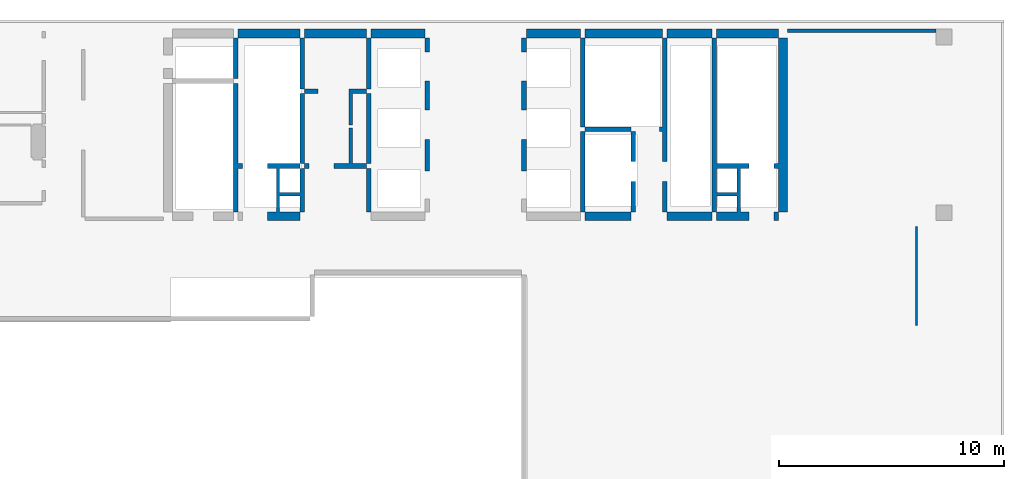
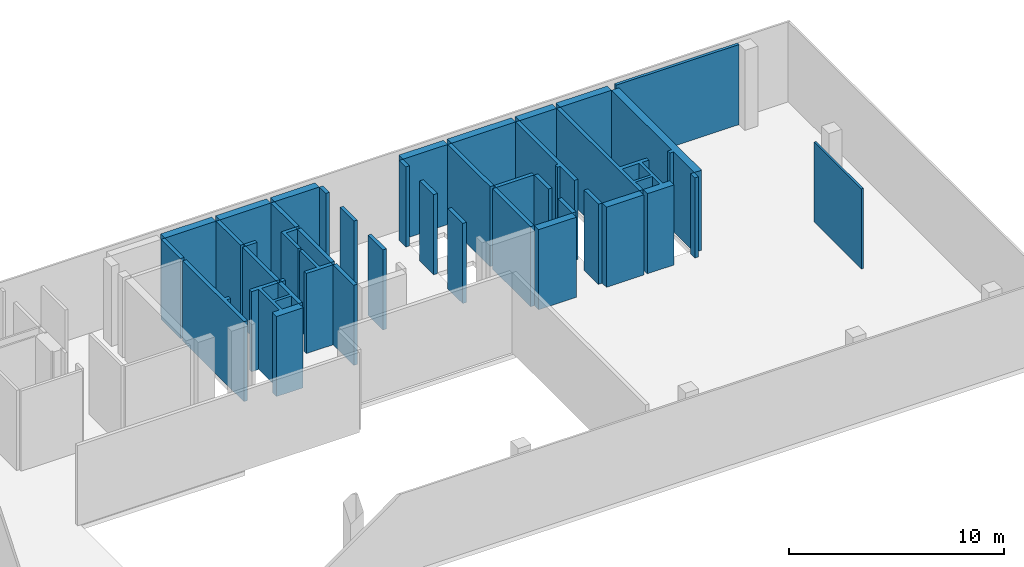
# One storey, part 2 of 3: 39 walls.
"""IFC4 building model written with IfcOpenShell, lengths in millimetres."""

from ifc_helpers import new_model, si_unit, frame, origin, place, context, project, spatial, triangles, element, save


model = new_model("IFC4")

# Units and contexts
model_context = context("Model", 3, precision=0.001, world=origin())
ifc_project = project(units=[si_unit("LENGTHUNIT", "METRE", prefix="MILLI"), si_unit("AREAUNIT", "SQUARE_METRE"), si_unit("VOLUMEUNIT", "CUBIC_METRE")], contexts=[model_context])

# Site, building, storey
site_placement = place(None, origin())
site = spatial("IfcSite", under=ifc_project, at=site_placement, Name="Site", CompositionType="ELEMENT")
building_placement = place(site_placement, origin())
building = spatial("IfcBuilding", under=site, at=building_placement, Name="INNOCEAN", CompositionType="ELEMENT")
storey_placement = place(building_placement, frame((0.0, 0.0, 25400.0)))
storey = spatial("IfcBuildingStorey", under=building, at=storey_placement, Name="F06", CompositionType="ELEMENT", Elevation=25400.0)

# Walls
wall_1_placement = place(storey_placement, origin())
element("IfcWall", 1, at=wall_1_placement, inside=storey, Name="F06_Walls_F06_023", context=model_context, shape_type="Tessellation", body=[
    triangles([(17749.4, 17316.1, 0.0), (17749.4, 16922.4, 0.0), (17749.4, 16922.4, 4550.0), (17749.4, 17316.1, 4550.0), (19183.7, 16922.4, 0.0), (19183.7, 16922.4, 4550.0), (19183.7, 17316.1, 0.0), (19183.7, 17316.1, 4550.0), (19374.1, 17316.1, 0.0), (19374.1, 17316.1, 4550.0), (19374.1, 19246.7, 0.0), (19374.1, 19246.7, 4550.0), (19183.7, 19246.7, 0.0), (19183.7, 19246.7, 4550.0), (19183.7, 19449.9, 0.0), (19183.7, 19449.9, 4550.0), (17749.4, 19449.9, 0.0), (17749.4, 19449.9, 4550.0), (17749.4, 19246.7, 0.0), (17749.4, 19246.7, 4550.0), (18130.2, 19246.7, 0.0), (18130.2, 19246.7, 4550.0), (18130.2, 19245.0, 0.0), (18130.2, 19245.0, 4550.0), (18130.0, 19245.0, 0.0), (18130.0, 19245.0, 4550.0), (18130.0, 17316.1, 0.0), (18130.0, 17316.1, 4550.0), (18282.5, 17316.1, 0.0), (18282.5, 17316.1, 4550.0), (18282.5, 18014.7, 0.0), (18282.5, 18014.7, 4550.0), (19183.7, 18014.7, 0.0), (19183.7, 18014.7, 4550.0), (19183.7, 18167.1, 0.0), (19183.7, 18167.1, 4550.0), (18282.5, 18167.1, 0.0), (18282.5, 18167.1, 4550.0), (18282.5, 19246.7, 0.0), (18282.5, 19246.7, 4550.0)], [[1, 2, 3], [1, 3, 4], [2, 5, 6], [2, 6, 3], [5, 7, 8], [5, 8, 6], [9, 10, 8], [7, 9, 8], [9, 11, 12], [9, 12, 10], [13, 14, 12], [11, 13, 12], [13, 15, 16], [13, 16, 14], [15, 17, 18], [15, 18, 16], [17, 19, 20], [17, 20, 18], [19, 21, 22], [19, 22, 20], [21, 23, 24], [21, 24, 22], [23, 25, 26], [23, 26, 24], [25, 27, 28], [25, 28, 26], [27, 1, 4], [27, 4, 28], [7, 29, 30], [7, 30, 8], [29, 31, 32], [29, 32, 30], [31, 33, 34], [31, 34, 32], [33, 7, 8], [33, 8, 34], [13, 35, 36], [13, 36, 14], [35, 37, 38], [35, 38, 36], [37, 39, 40], [37, 40, 38], [39, 13, 14], [39, 14, 40], [33, 9, 7], [35, 9, 33], [29, 7, 5], [2, 29, 5], [27, 29, 2], [1, 27, 2], [31, 35, 33], [31, 29, 27], [11, 9, 35], [37, 35, 31], [13, 11, 35], [39, 15, 13], [23, 39, 37], [25, 23, 37], [21, 39, 23], [17, 21, 19], [17, 15, 39], [17, 39, 21], [27, 25, 37], [27, 37, 31], [10, 34, 8], [10, 36, 34], [8, 30, 6], [30, 3, 6], [30, 28, 3], [28, 4, 3], [36, 32, 34], [30, 32, 28], [10, 12, 36], [36, 38, 32], [12, 14, 36], [16, 40, 14], [40, 24, 38], [24, 26, 38], [40, 22, 24], [22, 18, 20], [16, 18, 40], [40, 18, 22], [26, 28, 38], [38, 28, 32]], closed=True),
])
wall_2_placement = place(storey_placement, origin())
element("IfcWall", 2, at=wall_2_placement, inside=storey, Name="F06_Walls_F06_024", context=model_context, shape_type="Tessellation", body=[
    triangles([(16429.3, 23019.0, 0.0), (16226.2, 23019.0, 0.0), (16226.2, 23019.0, 4550.0), (16429.3, 23019.0, 4550.0), (16429.3, 19449.9, 0.0), (16429.3, 19449.9, 4550.0), (16632.4, 19449.9, 0.0), (16632.4, 19449.9, 4550.0), (16632.4, 19246.7, 0.0), (16632.4, 19246.7, 4550.0), (16429.3, 19246.7, 0.0), (16429.3, 19246.7, 4550.0), (16429.3, 17316.1, 0.0), (16429.3, 17316.1, 4550.0), (16226.2, 17316.1, 0.0), (16226.2, 17316.1, 4550.0), (16226.2, 19246.7, 0.0), (16226.2, 19246.7, 4550.0), (16226.2, 19449.9, 0.0), (16226.2, 19449.9, 4550.0)], [[1, 2, 3], [1, 3, 4], [5, 1, 4], [5, 4, 6], [7, 5, 6], [7, 6, 8], [9, 7, 8], [9, 8, 10], [11, 9, 10], [11, 10, 12], [13, 11, 12], [13, 12, 14], [15, 13, 14], [15, 14, 16], [17, 15, 16], [17, 16, 18], [19, 17, 18], [19, 18, 20], [2, 19, 20], [2, 20, 3], [17, 11, 13], [17, 13, 15], [5, 7, 9], [5, 9, 11], [19, 5, 11], [19, 11, 17], [1, 5, 19], [2, 1, 19], [12, 18, 14], [14, 18, 16], [8, 6, 10], [10, 6, 12], [6, 20, 12], [12, 20, 18], [6, 4, 20], [4, 3, 20]], closed=True),
])
wall_3_placement = place(storey_placement, origin())
element("IfcWall", 3, at=wall_3_placement, inside=storey, Name="F06_Walls_F06_025", context=model_context, shape_type="Tessellation", body=[
    triangles([(19374.1, 19449.9, 0.0), (19374.1, 19246.7, 0.0), (19374.1, 19246.7, 4550.0), (19374.1, 19449.9, 4550.0), (19577.2, 19449.9, 0.0), (19577.2, 19449.9, 4550.0), (19577.2, 19246.7, 0.0), (19577.2, 19246.7, 4550.0)], [[1, 2, 3], [1, 3, 4], [5, 1, 4], [5, 4, 6], [7, 5, 6], [7, 6, 8], [2, 7, 8], [2, 8, 3], [1, 5, 7], [1, 7, 2], [6, 4, 8], [8, 4, 3]], closed=True),
])
wall_4_placement = place(storey_placement, origin())
element("IfcWall", 4, at=wall_4_placement, inside=storey, Name="F06_Walls_F06_026", context=model_context, shape_type="Tessellation", body=[
    triangles([(22128.5, 19246.7, 0.0), (22128.5, 19449.9, 0.0), (22128.5, 19449.9, 4550.0), (22128.5, 19246.7, 4550.0), (20694.2, 19246.7, 0.0), (20694.2, 19246.7, 4550.0), (20694.2, 19449.9, 0.0), (20694.2, 19449.9, 4550.0), (21366.9, 19449.9, 0.0), (21366.9, 19449.9, 4550.0), (21366.9, 21024.9, 0.0), (21366.9, 21024.9, 4550.0), (21519.3, 21024.9, 0.0), (21519.3, 21024.9, 4550.0), (21519.3, 19449.9, 0.0), (21519.3, 19449.9, 4550.0)], [[1, 2, 3], [1, 3, 4], [5, 1, 4], [5, 4, 6], [7, 5, 6], [7, 6, 8], [9, 7, 8], [9, 8, 10], [11, 9, 10], [11, 10, 12], [13, 11, 12], [13, 12, 14], [15, 13, 14], [15, 14, 16], [2, 15, 16], [2, 16, 3], [15, 2, 1], [9, 15, 1], [5, 9, 1], [7, 9, 5], [11, 13, 15], [11, 15, 9], [3, 16, 4], [16, 10, 4], [10, 6, 4], [10, 8, 6], [14, 12, 16], [16, 12, 10]], closed=True),
])
wall_5_placement = place(storey_placement, origin())
element("IfcWall", 5, at=wall_5_placement, inside=storey, Name="F06_Walls_F06_027", context=model_context, shape_type="Tessellation", body=[
    triangles([(19374.1, 19449.9, 0.0), (19374.1, 22574.4, 0.0), (19374.1, 22574.4, 4550.0), (19374.1, 19449.9, 4550.0), (19183.7, 19449.9, 4550.0), (19183.7, 19449.9, 0.0), (19183.7, 22574.4, 0.0), (19183.7, 22574.4, 4550.0)], [[1, 2, 3], [1, 3, 4], [1, 4, 5], [6, 1, 5], [7, 6, 5], [7, 5, 8], [7, 8, 3], [2, 7, 3], [2, 1, 6], [7, 2, 6], [4, 3, 5], [3, 8, 5]], closed=True),
])
wall_6_placement = place(storey_placement, origin())
element("IfcWall", 6, at=wall_6_placement, inside=storey, Name="F06_Walls_F06_028", context=model_context, shape_type="Tessellation", body=[
    triangles([(22331.6, 19449.9, 0.0), (22331.6, 22574.4, 0.0), (22331.6, 22574.4, 4550.0), (22331.6, 19449.9, 4550.0), (22128.5, 19449.9, 0.0), (22128.5, 19449.9, 4550.0), (22128.5, 22574.4, 0.0), (22128.5, 22574.4, 4550.0)], [[1, 2, 3], [1, 3, 4], [5, 1, 4], [5, 4, 6], [7, 5, 6], [7, 6, 8], [2, 7, 8], [2, 8, 3], [2, 1, 5], [7, 2, 5], [4, 3, 6], [3, 8, 6]], closed=True),
])
wall_7_placement = place(storey_placement, origin())
element("IfcWall", 7, at=wall_7_placement, inside=storey, Name="F06_Walls_F06_029", context=model_context, shape_type="Tessellation", body=[
    triangles([(21519.3, 22574.4, 0.0), (22128.5, 22574.4, 0.0), (22128.5, 22574.4, 4550.0), (21519.3, 22574.4, 4550.0), (21519.3, 21177.3, 4550.0), (21519.3, 21177.3, 0.0), (21366.9, 21177.3, 0.0), (21366.9, 21177.3, 4550.0), (21366.9, 22574.4, 4550.0), (21366.9, 22574.4, 0.0), (21366.9, 22765.0, 0.0), (21366.9, 22765.0, 4550.0), (22128.5, 22765.0, 0.0), (22128.5, 22765.0, 4550.0)], [[1, 2, 3], [1, 3, 4], [1, 4, 5], [6, 1, 5], [7, 6, 5], [7, 5, 8], [7, 8, 9], [10, 7, 9], [11, 10, 9], [11, 9, 12], [13, 11, 12], [13, 12, 14], [2, 13, 14], [2, 14, 3], [1, 13, 2], [10, 1, 6], [10, 6, 7], [11, 1, 10], [11, 13, 1], [14, 4, 3], [4, 9, 5], [5, 9, 8], [4, 12, 9], [14, 12, 4]], closed=True),
])
wall_8_placement = place(storey_placement, origin())
element("IfcWall", 8, at=wall_8_placement, inside=storey, Name="F06_Walls_F06_030", context=model_context, shape_type="Tessellation", body=[
    triangles([(19970.7, 22574.4, 0.0), (19970.7, 22765.0, 0.0), (19970.7, 22765.0, 4550.0), (19970.7, 22574.4, 4550.0), (19374.1, 22574.4, 0.0), (19374.1, 22574.4, 4550.0), (19374.1, 22765.0, 0.0), (19374.1, 22765.0, 4550.0)], [[1, 2, 3], [1, 3, 4], [5, 1, 4], [5, 4, 6], [7, 5, 6], [7, 6, 8], [2, 7, 8], [2, 8, 3], [7, 2, 1], [7, 1, 5], [3, 8, 4], [4, 8, 6]], closed=True),
])
wall_9_placement = place(storey_placement, origin())
element("IfcWall", 9, at=wall_9_placement, inside=storey, Name="F06_Walls_F06_031", context=model_context, shape_type="Tessellation", body=[
    triangles([(19374.1, 22765.0, 0.0), (19374.1, 25025.8, 0.0), (19374.1, 25025.8, 4550.0), (19374.1, 22765.0, 4550.0), (19183.7, 22765.0, 4550.0), (19183.7, 22765.0, 0.0), (19183.7, 25025.8, 0.0), (19183.7, 25025.8, 4550.0)], [[1, 2, 3], [1, 3, 4], [1, 4, 5], [6, 1, 5], [7, 6, 5], [7, 5, 8], [7, 8, 3], [2, 7, 3], [7, 2, 1], [7, 1, 6], [3, 8, 4], [4, 8, 5]], closed=True),
])
wall_10_placement = place(storey_placement, origin())
element("IfcWall", 10, at=wall_10_placement, inside=storey, Name="F06_Walls_F06_032", context=model_context, shape_type="Tessellation", body=[
    triangles([(16429.3, 23222.2, 0.0), (16429.3, 25025.8, 0.0), (16429.3, 25025.8, 4550.0), (16429.3, 23222.2, 4550.0), (16226.2, 23222.2, 0.0), (16226.2, 23222.2, 4550.0), (16226.2, 25025.8, 0.0), (16226.2, 25025.8, 4550.0)], [[1, 2, 3], [1, 3, 4], [5, 1, 4], [5, 4, 6], [7, 5, 6], [7, 6, 8], [2, 7, 8], [2, 8, 3], [7, 2, 1], [7, 1, 5], [3, 8, 4], [4, 8, 6]], closed=True),
])
wall_11_placement = place(storey_placement, origin())
element("IfcWall", 11, at=wall_11_placement, inside=storey, Name="F06_Walls_F06_034", context=model_context, shape_type="Tessellation", body=[
    triangles([(19183.7, 25025.8, 0.0), (19183.7, 25419.5, 0.0), (19183.7, 25419.5, 4550.0), (19183.7, 25025.8, 4550.0), (16429.3, 25025.8, 0.0), (16429.3, 25025.8, 4550.0), (16429.3, 25419.5, 0.0), (16429.3, 25419.5, 4550.0)], [[1, 2, 3], [1, 3, 4], [5, 1, 4], [5, 4, 6], [7, 5, 6], [7, 6, 8], [2, 7, 8], [2, 8, 3], [7, 2, 1], [7, 1, 5], [3, 8, 4], [4, 8, 6]], closed=True),
])
wall_12_placement = place(storey_placement, origin())
element("IfcWall", 12, at=wall_12_placement, inside=storey, Name="F06_Walls_F06_035", context=model_context, shape_type="Tessellation", body=[
    triangles([(22128.5, 25419.5, 0.0), (19374.1, 25419.5, 0.0), (19374.1, 25419.5, 4550.0), (22128.5, 25419.5, 4550.0), (22128.5, 25025.8, 0.0), (22128.5, 25025.8, 4550.0), (19374.1, 25025.8, 0.0), (19374.1, 25025.8, 4550.0)], [[1, 2, 3], [1, 3, 4], [5, 1, 4], [5, 4, 6], [7, 5, 6], [7, 6, 8], [2, 7, 8], [2, 8, 3], [2, 1, 5], [2, 5, 7], [4, 3, 6], [6, 3, 8]], closed=True),
])
wall_13_placement = place(storey_placement, origin())
element("IfcWall", 13, at=wall_13_placement, inside=storey, Name="F06_Walls_F06_040", context=model_context, shape_type="Tessellation", body=[
    triangles([(33869.8, 16922.4, 0.0), (33869.8, 17316.1, 0.0), (33869.8, 17316.1, 4550.0), (33869.8, 16922.4, 4550.0), (31826.2, 16922.4, 0.0), (31826.2, 16922.4, 4550.0), (31826.2, 17316.1, 0.0), (31826.2, 17316.1, 4550.0)], [[1, 2, 3], [1, 3, 4], [5, 1, 4], [5, 4, 6], [7, 5, 6], [7, 6, 8], [2, 7, 8], [2, 8, 3], [7, 2, 1], [7, 1, 5], [3, 8, 4], [4, 8, 6]], closed=True),
])
wall_14_placement = place(storey_placement, origin())
element("IfcWall", 14, at=wall_14_placement, inside=storey, Name="F06_Walls_F06_043", context=model_context, shape_type="Tessellation", body=[
    triangles([(34072.9, 17316.1, 0.0), (34072.9, 18649.7, 0.0), (34072.9, 18649.7, 4550.0), (34072.9, 17316.1, 4550.0), (33869.8, 17316.1, 0.0), (33869.8, 17316.1, 4550.0), (33869.8, 18649.7, 0.0), (33869.8, 18649.7, 4550.0)], [[1, 2, 3], [1, 3, 4], [5, 1, 4], [5, 4, 6], [7, 5, 6], [7, 6, 8], [2, 7, 8], [2, 8, 3], [7, 2, 1], [7, 1, 5], [3, 8, 4], [4, 8, 6]], closed=True),
])
wall_15_placement = place(storey_placement, origin())
element("IfcWall", 15, at=wall_15_placement, inside=storey, Name="F06_Walls_F06_044", context=model_context, shape_type="Tessellation", body=[
    triangles([(22331.6, 17316.1, 0.0), (22331.6, 19246.7, 0.0), (22331.6, 19246.7, 4550.0), (22331.6, 17316.1, 4550.0), (22128.5, 17316.1, 0.0), (22128.5, 17316.1, 4550.0), (22128.5, 19246.7, 0.0), (22128.5, 19246.7, 4550.0)], [[1, 2, 3], [1, 3, 4], [5, 1, 4], [5, 4, 6], [7, 5, 6], [7, 6, 8], [2, 7, 8], [2, 8, 3], [7, 2, 1], [7, 1, 5], [3, 8, 4], [4, 8, 6]], closed=True),
])
wall_16_placement = place(storey_placement, origin())
element("IfcWall", 16, at=wall_16_placement, inside=storey, Name="F06_Walls_F06_045", context=model_context, shape_type="Tessellation", body=[
    triangles([(31826.2, 20872.5, 0.0), (31826.2, 20872.5, 4550.0), (31826.2, 17316.1, 4550.0), (31826.2, 17316.1, 0.0), (31623.1, 17316.1, 0.0), (31623.1, 17316.1, 4550.0), (31623.1, 20872.5, 4550.0), (31623.1, 20872.5, 0.0)], [[1, 2, 3], [4, 1, 3], [5, 4, 3], [5, 3, 6], [5, 6, 7], [8, 5, 7], [1, 8, 7], [1, 7, 2], [8, 1, 4], [8, 4, 5], [2, 7, 3], [3, 7, 6]], closed=True),
])
wall_17_placement = place(storey_placement, origin())
element("IfcWall", 17, at=wall_17_placement, inside=storey, Name="F06_Walls_F06_046", context=model_context, shape_type="Tessellation", body=[
    triangles([(24921.0, 19119.7, 0.0), (24921.0, 20516.8, 0.0), (24921.0, 20516.8, 4550.0), (24921.0, 19119.7, 4550.0), (24730.6, 19119.7, 4550.0), (24730.6, 19119.7, 0.0), (24730.6, 19120.0, 0.0), (24730.6, 19120.0, 4550.0), (24730.0, 19120.0, 0.0), (24730.0, 19120.0, 4550.0), (24730.0, 20515.0, 4550.0), (24730.0, 20515.0, 0.0), (24730.6, 20515.0, 0.0), (24730.6, 20515.0, 4550.0), (24730.6, 20516.8, 0.0), (24730.6, 20516.8, 4550.0)], [[1, 2, 3], [1, 3, 4], [1, 4, 5], [6, 1, 5], [7, 6, 5], [7, 5, 8], [9, 7, 8], [9, 8, 10], [9, 10, 11], [12, 9, 11], [13, 12, 11], [13, 11, 14], [15, 13, 14], [15, 14, 16], [15, 16, 3], [2, 15, 3], [7, 1, 6], [13, 2, 1], [13, 1, 7], [12, 7, 9], [12, 13, 7], [15, 2, 13], [4, 8, 5], [3, 14, 4], [4, 14, 8], [8, 11, 10], [14, 11, 8], [3, 16, 14]], closed=True),
])
wall_18_placement = place(storey_placement, origin())
element("IfcWall", 18, at=wall_18_placement, inside=storey, Name="F06_Walls_F06_047", context=model_context, shape_type="Tessellation", body=[
    triangles([(29224.0, 20515.0, 0.0), (29224.0, 20516.8, 0.0), (29224.0, 20516.8, 4550.0), (29224.0, 20515.0, 4550.0), (29225.0, 20515.0, 0.0), (29225.0, 20515.0, 4550.0), (29225.0, 19120.0, 4550.0), (29225.0, 19120.0, 0.0), (29224.0, 19120.0, 0.0), (29224.0, 19120.0, 4550.0), (29224.0, 19119.7, 0.0), (29224.0, 19119.7, 4550.0), (29020.9, 19119.7, 0.0), (29020.9, 19119.7, 4550.0), (29020.9, 19120.0, 0.0), (29020.9, 19120.0, 4550.0), (29020.0, 19120.0, 4550.0), (29020.0, 19120.0, 0.0), (29020.0, 20515.0, 4550.0), (29020.0, 20515.0, 0.0), (29020.9, 20515.0, 4550.0), (29020.9, 20515.0, 0.0), (29020.9, 20516.8, 0.0), (29020.9, 20516.8, 4550.0)], [[1, 2, 3], [1, 3, 4], [5, 1, 4], [5, 4, 6], [5, 6, 7], [8, 5, 7], [9, 8, 7], [9, 7, 10], [11, 9, 10], [11, 10, 12], [13, 11, 12], [13, 12, 14], [15, 13, 14], [15, 14, 16], [15, 16, 17], [18, 15, 17], [18, 17, 19], [20, 18, 19], [20, 19, 21], [22, 20, 21], [23, 22, 21], [23, 21, 24], [2, 23, 24], [2, 24, 3], [15, 9, 11], [15, 11, 13], [1, 5, 8], [1, 8, 9], [1, 9, 15], [22, 1, 15], [20, 15, 18], [20, 22, 15], [23, 2, 1], [23, 1, 22], [10, 16, 12], [12, 16, 14], [6, 4, 7], [7, 4, 10], [10, 4, 16], [4, 21, 16], [16, 19, 17], [21, 19, 16], [3, 24, 4], [4, 24, 21]], closed=True),
])
wall_19_placement = place(storey_placement, origin())
element("IfcWall", 19, at=wall_19_placement, inside=storey, Name="F06_Walls_F06_048", context=model_context, shape_type="Tessellation", body=[
    triangles([(34072.9, 19551.5, 0.0), (34072.9, 20872.5, 0.0), (34072.9, 20872.5, 4550.0), (34072.9, 19551.5, 4550.0), (33869.8, 19551.5, 0.0), (33869.8, 19551.5, 4550.0), (33869.8, 20872.5, 0.0), (33869.8, 20872.5, 4550.0)], [[1, 2, 3], [1, 3, 4], [5, 1, 4], [5, 4, 6], [7, 5, 6], [7, 6, 8], [2, 7, 8], [2, 8, 3], [7, 2, 1], [7, 1, 5], [3, 8, 4], [4, 8, 6]], closed=True),
])
wall_20_placement = place(storey_placement, origin())
element("IfcWall", 20, at=wall_20_placement, inside=storey, Name="F06_Walls_F06_049", context=model_context, shape_type="Tessellation", body=[
    triangles([(33869.8, 20872.5, 0.0), (33869.8, 21075.7, 0.0), (33869.8, 21075.7, 4550.0), (33869.8, 20872.5, 4550.0), (31826.2, 20872.5, 0.0), (31826.2, 20872.5, 4550.0), (31826.2, 21075.7, 0.0), (31826.2, 21075.7, 4550.0)], [[1, 2, 3], [1, 3, 4], [5, 1, 4], [5, 4, 6], [7, 5, 6], [7, 6, 8], [2, 7, 8], [2, 8, 3], [7, 2, 1], [7, 1, 5], [3, 8, 4], [4, 8, 6]], closed=True),
])
wall_21_placement = place(storey_placement, origin())
element("IfcWall", 21, at=wall_21_placement, inside=storey, Name="F06_Walls_F06_050", context=model_context, shape_type="Tessellation", body=[
    triangles([(35266.0, 25025.8, 0.0), (35266.0, 21075.7, 0.0), (35266.0, 21075.7, 4550.0), (35266.0, 25025.8, 4550.0), (35469.1, 25025.8, 0.0), (35469.1, 25025.8, 4550.0), (35469.1, 21075.7, 0.0), (35469.1, 21075.7, 4550.0), (35469.1, 20872.5, 0.0), (35469.1, 20872.5, 4550.0), (35469.1, 19551.5, 0.0), (35469.1, 19551.5, 4550.0), (35266.0, 19551.5, 0.0), (35266.0, 19551.5, 4550.0), (35266.0, 20872.5, 0.0), (35266.0, 20872.5, 4550.0), (35126.4, 20872.5, 0.0), (35126.4, 20872.5, 4550.0), (35126.4, 21075.7, 0.0), (35126.4, 21075.7, 4550.0)], [[1, 2, 3], [1, 3, 4], [5, 1, 4], [5, 4, 6], [7, 5, 6], [7, 6, 8], [9, 7, 8], [9, 8, 10], [11, 9, 10], [11, 10, 12], [13, 11, 12], [13, 12, 14], [15, 13, 14], [15, 14, 16], [17, 15, 16], [17, 16, 18], [19, 17, 18], [19, 18, 20], [2, 19, 20], [2, 20, 3], [15, 9, 11], [15, 11, 13], [7, 9, 15], [2, 7, 15], [19, 15, 17], [19, 2, 15], [1, 5, 7], [1, 7, 2], [10, 16, 12], [12, 16, 14], [10, 8, 16], [8, 3, 16], [16, 20, 18], [3, 20, 16], [6, 4, 8], [8, 4, 3]], closed=True),
])
wall_22_placement = place(storey_placement, origin())
element("IfcWall", 22, at=wall_22_placement, inside=storey, Name="F06_Walls_F06_051", context=model_context, shape_type="Tessellation", body=[
    triangles([(24730.6, 23120.6, 0.0), (24730.6, 23120.0, 0.0), (24730.6, 23120.0, 4550.0), (24730.6, 23120.6, 4550.0), (24921.0, 23120.6, 4550.0), (24921.0, 23120.6, 0.0), (24921.0, 21825.1, 0.0), (24921.0, 21825.1, 4550.0), (24920.0, 21825.1, 0.0), (24920.0, 21825.1, 4550.0), (24920.0, 21825.0, 0.0), (24920.0, 21825.0, 4550.0), (24730.0, 21825.0, 0.0), (24730.0, 21825.0, 4550.0), (24730.0, 23120.0, 0.0), (24730.0, 23120.0, 4550.0)], [[1, 2, 3], [1, 3, 4], [1, 4, 5], [6, 1, 5], [7, 6, 5], [7, 5, 8], [9, 7, 8], [9, 8, 10], [11, 9, 10], [11, 10, 12], [13, 11, 12], [13, 12, 14], [15, 13, 14], [15, 14, 16], [2, 15, 16], [2, 16, 3], [13, 9, 11], [6, 7, 9], [2, 6, 9], [2, 9, 13], [1, 6, 2], [15, 2, 13], [10, 14, 12], [8, 5, 10], [5, 3, 10], [10, 3, 14], [5, 4, 3], [3, 16, 14]], closed=True),
])
wall_23_placement = place(storey_placement, origin())
element("IfcWall", 23, at=wall_23_placement, inside=storey, Name="F06_Walls_F06_052", context=model_context, shape_type="Tessellation", body=[
    triangles([(29020.9, 23120.6, 0.0), (29020.9, 23120.0, 0.0), (29020.9, 23120.0, 4550.0), (29020.9, 23120.6, 4550.0), (29224.0, 23120.6, 0.0), (29224.0, 23120.6, 4550.0), (29224.0, 23120.0, 0.0), (29224.0, 23120.0, 4550.0), (29225.0, 23120.0, 0.0), (29225.0, 23120.0, 4550.0), (29225.0, 21825.0, 0.0), (29225.0, 21825.0, 4550.0), (29020.0, 21825.0, 0.0), (29020.0, 21825.0, 4550.0), (29020.0, 23120.0, 0.0), (29020.0, 23120.0, 4550.0)], [[1, 2, 3], [1, 3, 4], [5, 1, 4], [5, 4, 6], [7, 5, 6], [7, 6, 8], [9, 7, 8], [9, 8, 10], [11, 9, 10], [11, 10, 12], [13, 11, 12], [13, 12, 14], [15, 13, 14], [15, 14, 16], [15, 16, 3], [2, 15, 3], [7, 9, 11], [7, 11, 13], [2, 7, 13], [1, 5, 7], [1, 7, 2], [15, 2, 13], [10, 8, 12], [12, 8, 14], [8, 3, 14], [6, 4, 8], [8, 4, 3], [3, 16, 14]], closed=True),
])
wall_24_placement = place(storey_placement, origin())
element("IfcWall", 24, at=wall_24_placement, inside=storey, Name="F06_Walls_F06_053", context=model_context, shape_type="Tessellation", body=[
    triangles([(31826.2, 21075.7, 0.0), (31826.2, 25025.8, 0.0), (31826.2, 25025.8, 4550.0), (31826.2, 21075.7, 4550.0), (31623.1, 21075.7, 0.0), (31623.1, 21075.7, 4550.0), (31623.1, 25025.8, 0.0), (31623.1, 25025.8, 4550.0)], [[1, 2, 3], [1, 3, 4], [5, 1, 4], [5, 4, 6], [7, 5, 6], [7, 6, 8], [2, 7, 8], [2, 8, 3], [2, 1, 5], [7, 2, 5], [4, 3, 6], [3, 8, 6]], closed=True),
])
wall_25_placement = place(storey_placement, origin())
element("IfcWall", 25, at=wall_25_placement, inside=storey, Name="F06_Walls_F06_054", context=model_context, shape_type="Tessellation", body=[
    triangles([(22331.6, 22765.0, 0.0), (22331.6, 25025.8, 0.0), (22331.6, 25025.8, 4550.0), (22331.6, 22765.0, 4550.0), (22128.5, 22765.0, 0.0), (22128.5, 22765.0, 4550.0), (22128.5, 25025.8, 0.0), (22128.5, 25025.8, 4550.0)], [[1, 2, 3], [1, 3, 4], [5, 1, 4], [5, 4, 6], [7, 5, 6], [7, 6, 8], [2, 7, 8], [2, 8, 3], [7, 2, 1], [7, 1, 5], [3, 8, 4], [4, 8, 6]], closed=True),
])
wall_26_placement = place(storey_placement, origin())
element("IfcWall", 26, at=wall_26_placement, inside=storey, Name="F06_Walls_F06_055", context=model_context, shape_type="Tessellation", body=[
    triangles([(24921.0, 24416.1, 0.0), (24921.0, 25025.8, 0.0), (24921.0, 25025.8, 4550.0), (24921.0, 24416.1, 4550.0), (24730.6, 24416.1, 4550.0), (24730.6, 24416.1, 0.0), (24730.6, 25025.8, 0.0), (24730.6, 25025.8, 4550.0)], [[1, 2, 3], [1, 3, 4], [1, 4, 5], [6, 1, 5], [7, 6, 5], [7, 5, 8], [7, 8, 3], [2, 7, 3], [7, 2, 1], [7, 1, 6], [3, 8, 4], [4, 8, 5]], closed=True),
])
wall_27_placement = place(storey_placement, origin())
element("IfcWall", 27, at=wall_27_placement, inside=storey, Name="F06_Walls_F06_056", context=model_context, shape_type="Tessellation", body=[
    triangles([(29224.0, 24416.1, 0.0), (29224.0, 25025.8, 0.0), (29224.0, 25025.8, 4550.0), (29224.0, 24416.1, 4550.0), (29020.9, 24416.1, 0.0), (29020.9, 24416.1, 4550.0), (29020.9, 25025.8, 0.0), (29020.9, 25025.8, 4550.0)], [[1, 2, 3], [1, 3, 4], [5, 1, 4], [5, 4, 6], [7, 5, 6], [7, 6, 8], [2, 7, 8], [2, 8, 3], [7, 2, 1], [7, 1, 5], [3, 8, 4], [4, 8, 6]], closed=True),
])
wall_28_placement = place(storey_placement, origin())
element("IfcWall", 28, at=wall_28_placement, inside=storey, Name="F06_Walls_F06_057", context=model_context, shape_type="Tessellation", body=[
    triangles([(24730.6, 25025.8, 0.0), (24730.6, 25419.5, 0.0), (24730.6, 25419.5, 4550.0), (24730.6, 25025.8, 4550.0), (22331.6, 25025.8, 4550.0), (22331.6, 25025.8, 0.0), (22331.6, 25419.5, 0.0), (22331.6, 25419.5, 4550.0)], [[1, 2, 3], [1, 3, 4], [1, 4, 5], [6, 1, 5], [7, 6, 5], [7, 5, 8], [7, 8, 3], [2, 7, 3], [7, 2, 1], [7, 1, 6], [3, 8, 4], [4, 8, 5]], closed=True),
])
wall_29_placement = place(storey_placement, origin())
element("IfcWall", 29, at=wall_29_placement, inside=storey, Name="F06_Walls_F06_058", context=model_context, shape_type="Tessellation", body=[
    triangles([(31623.1, 25419.5, 0.0), (29224.0, 25419.5, 0.0), (29224.0, 25419.5, 4550.0), (31623.1, 25419.5, 4550.0), (31623.1, 25025.8, 0.0), (31623.1, 25025.8, 4550.0), (29224.0, 25025.8, 0.0), (29224.0, 25025.8, 4550.0)], [[1, 2, 3], [1, 3, 4], [5, 1, 4], [5, 4, 6], [7, 5, 6], [7, 6, 8], [2, 7, 8], [2, 8, 3], [2, 1, 5], [2, 5, 7], [4, 3, 6], [6, 3, 8]], closed=True),
])
wall_30_placement = place(storey_placement, origin())
element("IfcWall", 30, at=wall_30_placement, inside=storey, Name="F06_Walls_F06_059", context=model_context, shape_type="Tessellation", body=[
    triangles([(35266.0, 25025.8, 0.0), (35266.0, 25419.5, 0.0), (35266.0, 25419.5, 4550.0), (35266.0, 25025.8, 4550.0), (31826.2, 25025.8, 0.0), (31826.2, 25025.8, 4550.0), (31826.2, 25419.5, 0.0), (31826.2, 25419.5, 4550.0)], [[1, 2, 3], [1, 3, 4], [5, 1, 4], [5, 4, 6], [7, 5, 6], [7, 6, 8], [2, 7, 8], [2, 8, 3], [7, 2, 1], [7, 1, 5], [3, 8, 4], [4, 8, 6]], closed=True),
])
wall_31_placement = place(storey_placement, origin())
element("IfcWall", 31, at=wall_31_placement, inside=storey, Name="F06_Walls_F06_060", context=model_context, shape_type="Tessellation", body=[
    triangles([(46590.0, 16670.0, 0.0), (46485.0, 16670.0, 0.0), (46485.0, 16670.0, 4550.0), (46590.0, 16670.0, 4550.0), (46590.0, 12275.0, 0.0), (46590.0, 12275.0, 4550.0), (46588.4, 12275.0, 4550.0), (46588.4, 12275.0, 0.0), (46588.4, 12273.7, 0.0), (46588.4, 12273.7, 4550.0), (46486.8, 12273.7, 4550.0), (46486.8, 12273.7, 0.0), (46486.8, 12275.0, 0.0), (46486.8, 12275.0, 4550.0), (46485.0, 12275.0, 0.0), (46485.0, 12275.0, 4550.0)], [[1, 2, 3], [1, 3, 4], [5, 1, 4], [5, 4, 6], [5, 6, 7], [8, 5, 7], [9, 8, 7], [9, 7, 10], [9, 10, 11], [12, 9, 11], [13, 12, 11], [13, 11, 14], [15, 13, 14], [15, 14, 16], [2, 15, 16], [2, 16, 3], [13, 8, 9], [13, 9, 12], [1, 5, 8], [1, 8, 13], [2, 13, 15], [2, 1, 13], [7, 14, 10], [10, 14, 11], [6, 4, 7], [7, 4, 14], [14, 3, 16], [4, 3, 14]], closed=True),
])
wall_32_placement = place(storey_placement, origin())
element("IfcWall", 32, at=wall_32_placement, inside=storey, Name="F06_Walls_F06_061", context=model_context, shape_type="Tessellation", body=[
    triangles([(37474.6, 16922.4, 0.0), (37474.6, 17316.1, 0.0), (37474.6, 17316.1, 4550.0), (37474.6, 16922.4, 4550.0), (35469.1, 16922.4, 4550.0), (35469.1, 16922.4, 0.0), (35469.1, 17316.1, 0.0), (35469.1, 17316.1, 4550.0)], [[1, 2, 3], [1, 3, 4], [1, 4, 5], [6, 1, 5], [7, 6, 5], [7, 5, 8], [7, 8, 3], [2, 7, 3], [7, 2, 1], [7, 1, 6], [3, 8, 4], [4, 8, 5]], closed=True),
])
wall_33_placement = place(storey_placement, origin())
element("IfcWall", 33, at=wall_33_placement, inside=storey, Name="F06_Walls_F06_062", context=model_context, shape_type="Tessellation", body=[
    triangles([(37665.0, 17316.1, 0.0), (37665.0, 16922.4, 0.0), (37665.0, 16922.4, 4550.0), (37665.0, 17316.1, 4550.0), (39099.4, 16922.4, 0.0), (39099.4, 16922.4, 4550.0), (39099.4, 17316.1, 0.0), (39099.4, 17316.1, 4550.0), (38720.0, 17316.1, 0.0), (38720.0, 17316.1, 4550.0), (38720.0, 19245.0, 0.0), (38720.0, 19245.0, 4550.0), (39100.0, 19245.0, 0.0), (39100.0, 19245.0, 4550.0), (39100.0, 19450.0, 0.0), (39100.0, 19450.0, 4550.0), (37665.0, 19450.0, 0.0), (37665.0, 19450.0, 4550.0), (37665.0, 25025.8, 0.0), (37665.0, 25025.8, 4550.0), (37474.6, 25025.8, 0.0), (37474.6, 25025.8, 4550.0), (37474.6, 19449.9, 0.0), (37474.6, 19449.9, 4550.0), (37474.6, 17316.1, 0.0), (37474.6, 17316.1, 4550.0), (37665.0, 18014.7, 0.0), (37665.0, 18014.7, 4550.0), (38565.0, 18014.7, 0.0), (38565.0, 18014.7, 4550.0), (38565.0, 17316.1, 0.0), (38565.0, 17316.1, 4550.0), (38565.0, 19245.0, 0.0), (38565.0, 18167.1, 0.0), (38565.0, 18167.1, 4550.0), (38565.0, 19245.0, 4550.0), (37665.0, 18167.1, 0.0), (37665.0, 18167.1, 4550.0), (37665.0, 19245.0, 0.0), (37665.0, 19245.0, 4550.0)], [[1, 2, 3], [1, 3, 4], [2, 5, 6], [2, 6, 3], [5, 7, 8], [5, 8, 6], [9, 10, 8], [7, 9, 8], [9, 11, 12], [9, 12, 10], [11, 13, 14], [11, 14, 12], [13, 15, 16], [13, 16, 14], [17, 18, 16], [15, 17, 16], [17, 19, 20], [17, 20, 18], [21, 22, 20], [19, 21, 20], [21, 23, 24], [21, 24, 22], [23, 25, 26], [23, 26, 24], [1, 4, 26], [25, 1, 26], [1, 27, 28], [1, 28, 4], [27, 29, 30], [27, 30, 28], [29, 31, 32], [29, 32, 30], [31, 1, 4], [31, 4, 32], [33, 34, 35], [33, 35, 36], [34, 37, 38], [34, 38, 35], [37, 39, 40], [37, 40, 38], [39, 33, 36], [39, 36, 40], [9, 7, 5], [31, 9, 5], [2, 31, 5], [29, 9, 31], [1, 31, 2], [27, 1, 25], [37, 29, 27], [37, 34, 29], [37, 27, 25], [11, 15, 13], [33, 11, 34], [33, 15, 11], [17, 33, 39], [17, 15, 33], [23, 39, 37], [23, 17, 39], [23, 37, 25], [21, 19, 17], [21, 17, 23], [11, 9, 29], [11, 29, 34], [8, 10, 6], [10, 32, 6], [32, 3, 6], [10, 30, 32], [32, 4, 3], [4, 28, 26], [30, 38, 28], [35, 38, 30], [28, 38, 26], [16, 12, 14], [12, 36, 35], [16, 36, 12], [36, 18, 40], [16, 18, 36], [40, 24, 38], [18, 24, 40], [38, 24, 26], [20, 22, 18], [18, 22, 24], [10, 12, 30], [30, 12, 35]], closed=True),
])
wall_34_placement = place(storey_placement, origin())
element("IfcWall", 34, at=wall_34_placement, inside=storey, Name="F06_Walls_F06_063", context=model_context, shape_type="Tessellation", body=[
    triangles([(40419.5, 16922.4, 0.0), (40419.5, 17316.1, 0.0), (40419.5, 17316.1, 4550.0), (40419.5, 16922.4, 4550.0), (40216.4, 16922.4, 0.0), (40216.4, 16922.4, 4550.0), (40216.4, 17316.1, 0.0), (40216.4, 17316.1, 4550.0)], [[1, 2, 3], [1, 3, 4], [5, 1, 4], [5, 4, 6], [7, 5, 6], [7, 6, 8], [2, 7, 8], [2, 8, 3], [7, 2, 1], [7, 1, 5], [3, 8, 4], [4, 8, 6]], closed=True),
])
wall_35_placement = place(storey_placement, origin())
element("IfcWall", 35, at=wall_35_placement, inside=storey, Name="F06_Walls_F06_064", context=model_context, shape_type="Tessellation", body=[
    triangles([(35469.1, 18649.7, 0.0), (35266.0, 18649.7, 0.0), (35266.0, 18649.7, 4550.0), (35469.1, 18649.7, 4550.0), (35469.1, 17316.1, 0.0), (35469.1, 17316.1, 4550.0), (35266.0, 17316.1, 0.0), (35266.0, 17316.1, 4550.0)], [[1, 2, 3], [1, 3, 4], [5, 1, 4], [5, 4, 6], [7, 5, 6], [7, 6, 8], [2, 7, 8], [2, 8, 3], [2, 1, 5], [2, 5, 7], [4, 3, 6], [6, 3, 8]], closed=True),
])
wall_36_placement = place(storey_placement, origin())
element("IfcWall", 36, at=wall_36_placement, inside=storey, Name="F06_Walls_F06_065", context=model_context, shape_type="Tessellation", body=[
    triangles([(40215.0, 19450.0, 0.0), (40215.0, 19245.0, 0.0), (40215.0, 19245.0, 4550.0), (40215.0, 19450.0, 4550.0), (40419.5, 19450.0, 0.0), (40419.5, 19450.0, 4550.0), (40419.5, 25025.8, 0.0), (40419.5, 25025.8, 4550.0), (40813.0, 25025.8, 0.0), (40813.0, 25025.8, 4550.0), (40813.0, 19449.9, 4550.0), (40813.0, 19449.9, 0.0), (40813.0, 17316.1, 0.0), (40813.0, 17316.1, 4550.0), (40419.5, 17316.1, 0.0), (40419.5, 17316.1, 4550.0), (40419.5, 19245.0, 0.0), (40419.5, 19245.0, 4550.0)], [[1, 2, 3], [1, 3, 4], [5, 1, 4], [5, 4, 6], [7, 5, 6], [7, 6, 8], [9, 7, 8], [9, 8, 10], [11, 9, 10], [12, 9, 11], [13, 12, 11], [13, 11, 14], [15, 13, 14], [15, 14, 16], [17, 15, 16], [17, 16, 18], [2, 17, 18], [2, 18, 3], [17, 12, 13], [17, 13, 15], [5, 12, 17], [1, 17, 2], [1, 5, 17], [9, 12, 5], [7, 9, 5], [11, 18, 14], [14, 18, 16], [11, 6, 18], [18, 4, 3], [6, 4, 18], [11, 10, 6], [10, 8, 6]], closed=True),
])
wall_37_placement = place(storey_placement, origin())
element("IfcWall", 37, at=wall_37_placement, inside=storey, Name="F06_Walls_F06_066", context=model_context, shape_type="Tessellation", body=[
    triangles([(37474.6, 25025.8, 0.0), (37474.6, 25025.8, 4550.0), (35469.1, 25025.8, 4550.0), (35469.1, 25025.8, 0.0), (35469.1, 25419.5, 0.0), (35469.1, 25419.5, 4550.0), (37474.6, 25419.5, 4550.0), (37474.6, 25419.5, 0.0)], [[1, 2, 3], [4, 1, 3], [5, 4, 3], [5, 3, 6], [5, 6, 7], [8, 5, 7], [1, 8, 7], [1, 7, 2], [5, 1, 4], [5, 8, 1], [2, 6, 3], [7, 6, 2]], closed=True),
])
wall_38_placement = place(storey_placement, origin())
element("IfcWall", 38, at=wall_38_placement, inside=storey, Name="F06_Walls_F06_067", context=model_context, shape_type="Tessellation", body=[
    triangles([(40419.5, 25025.8, 0.0), (40419.5, 25419.5, 0.0), (40419.5, 25419.5, 4550.0), (40419.5, 25025.8, 4550.0), (37665.0, 25025.8, 0.0), (37665.0, 25025.8, 4550.0), (37665.0, 25419.5, 0.0), (37665.0, 25419.5, 4550.0)], [[1, 2, 3], [1, 3, 4], [5, 1, 4], [5, 4, 6], [7, 5, 6], [7, 6, 8], [2, 7, 8], [2, 8, 3], [7, 2, 1], [7, 1, 5], [3, 8, 4], [4, 8, 6]], closed=True),
])
wall_39_placement = place(storey_placement, origin())
element("IfcWall", 39, at=wall_39_placement, inside=storey, Name="F06_Walls_F06_068", context=model_context, shape_type="Tessellation", body=[
    triangles([(47413.4, 25267.1, 0.0), (47413.4, 25419.5, 0.0), (47413.4, 25419.5, 4550.0), (47413.4, 25267.1, 4550.0), (40813.0, 25267.1, 4550.0), (40813.0, 25267.1, 0.0), (40813.0, 25419.5, 0.0), (40813.0, 25419.5, 4550.0)], [[1, 2, 3], [1, 3, 4], [5, 1, 4], [6, 1, 5], [7, 6, 5], [7, 5, 8], [3, 7, 8], [2, 7, 3], [7, 2, 1], [7, 1, 6], [3, 8, 4], [4, 8, 5]], closed=True),
])

save(model, "model.ifc")
